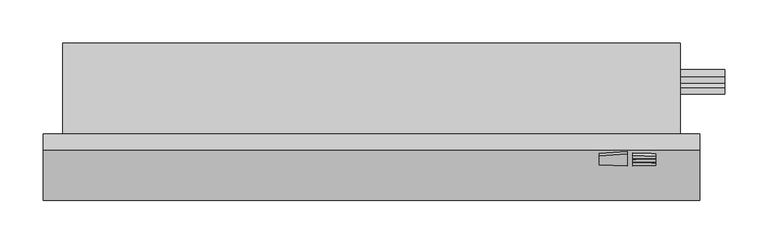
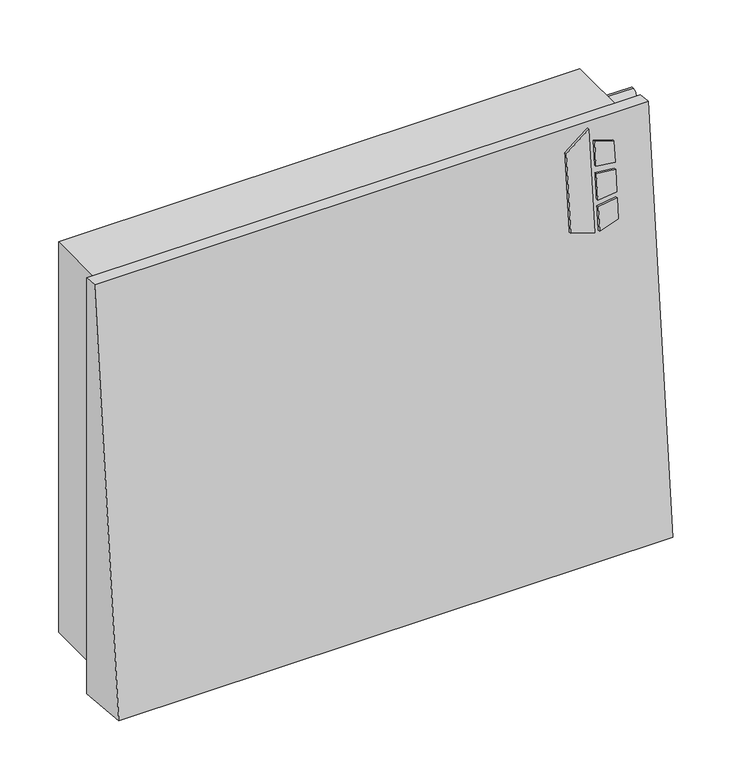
"""IFC4 building model written with IfcOpenShell, lengths in millimetres: proxy geometry, Exposed_Wall_Mounted_Fan_Coil_Unit_-_STY_-_IEC_-_2-Pipe_RH_2022 : Size 03 - 115V/60Hz/1Ph - 2 Row Coil."""

import ifcopenshell
import ifcopenshell.guid

model = None  # the IFC model being written
_history = None  # IfcOwnerHistory: only IFC2X3 demands one
_inside = {}  # id of a spatial element -> (the spatial element, [elements in it])
_under = {}  # id of a project, library or spatial element -> (it, [spatial elements below it])
_declared = {}  # id of a project -> (the project, [libraries it declares])
_typed = {}  # id of a type object -> (the type object, [elements of that type])
_made_of = {}  # id of a material, layer set ... -> (it, [elements and type objects made of it])


def new_model(schema):
    """Start an empty IFC model of exactly this schema.

    Asked for "IFC4X3", IfcOpenShell would pick the latest addendum, in which some entities
    have other attributes; the version numbers below select the first issue.
    IFC2X3 requires an IfcOwnerHistory on every rooted entity: one is made here for all.
    """
    global model, _history
    if schema == "IFC4X3":
        model = ifcopenshell.file(schema_version=(4, 3, 0, 0))
    else:
        model = ifcopenshell.file(schema=schema)
    _inside.clear()
    _under.clear()
    _declared.clear()
    _typed.clear()
    _made_of.clear()
    _history = None
    if model.schema == "IFC2X3":
        org = make("IfcOrganization", Name="unknown")
        user = make(
            "IfcPersonAndOrganization",
            ThePerson=make("IfcPerson", FamilyName="unknown"),
            TheOrganization=org,
        )
        app = make(
            "IfcApplication",
            ApplicationDeveloper=org,
            Version="unknown",
            ApplicationFullName="unknown",
            ApplicationIdentifier="unknown",
        )
        _history = make(
            "IfcOwnerHistory",
            OwningUser=user,
            OwningApplication=app,
            ChangeAction="ADDED",
            CreationDate=0,
        )
    return model


def make(cls, **values):
    """One entity of the class cls with the attributes given. An attribute that is None is left unset."""
    return model.create_entity(
        cls, **{name: value for name, value in values.items() if value is not None}
    )


def rooted(cls, **values):
    """An entity with a GlobalId (a new one), such as an element, a storey or a relation."""
    return make(cls, GlobalId=ifcopenshell.guid.new(), OwnerHistory=_history, **values)


def si_unit(unit_type, name, prefix=None):
    """IfcSIUnit, for example si_unit("LENGTHUNIT", "METRE", prefix="MILLI")."""
    return make("IfcSIUnit", UnitType=unit_type, Prefix=prefix, Name=name)


def assignment(units):
    """IfcUnitAssignment: the units of a project."""
    return None if units is None else make("IfcUnitAssignment", Units=units)


def point(xyz):
    """IfcCartesianPoint."""
    return None if xyz is None else make("IfcCartesianPoint", Coordinates=xyz)


def direction(xyz):
    """IfcDirection."""
    return None if xyz is None else make("IfcDirection", DirectionRatios=xyz)


def frame(location, z_axis=None, x_axis=None):
    """IfcAxis2Placement3D, a coordinate frame: its origin and axes. An axis left out is left unset."""
    return make(
        "IfcAxis2Placement3D",
        Location=point(location),
        Axis=direction(z_axis),
        RefDirection=direction(x_axis),
    )


def frame_2d(location, x_axis=None):
    """IfcAxis2Placement2D, a coordinate frame in the plane: its origin and x axis."""
    return make(
        "IfcAxis2Placement2D", Location=point(location), RefDirection=direction(x_axis)
    )


def origin():
    """The frame at (0, 0, 0) with its axes left unset."""
    return frame((0.0, 0.0, 0.0))


def place(relative_to, where):
    """IfcLocalPlacement: puts the frame where relative to a parent placement (None: the world)."""
    return make(
        "IfcLocalPlacement", PlacementRelTo=relative_to, RelativePlacement=where
    )


def context(
    kind, dimensions, precision=None, world=None, true_north=None, identifier=None
):
    """IfcGeometricRepresentationContext, for example the 3D "Model" context."""
    return make(
        "IfcGeometricRepresentationContext",
        ContextIdentifier=identifier,
        ContextType=kind,
        CoordinateSpaceDimension=dimensions,
        Precision=precision,
        WorldCoordinateSystem=world,
        TrueNorth=true_north,
    )


def project(units=None, contexts=None):
    """IfcProject with its units and contexts."""
    return rooted(
        "IfcProject",
        Name="project",
        RepresentationContexts=contexts,
        UnitsInContext=assignment(units),
    )


def spatial(cls, under=None, at=None, **own):
    """A site, building, storey or space (cls), placed at a placement, below another one or the project."""
    s = rooted(cls, ObjectPlacement=at, **own)
    if under is not None:
        _under.setdefault(under.id(), (under, []))[1].append(s)
    return s


def polyline(points):
    """IfcPolyline through the points."""
    return make("IfcPolyline", Points=[point(p) for p in points])


def circle_curve(where, radius):
    """IfcCircle in the frame where."""
    return make("IfcCircle", Position=where, Radius=radius)


def trimmed(basis, trim1, trim2, sense, master):
    """IfcTrimmedCurve: the piece of a basis curve between two trims."""
    return make(
        "IfcTrimmedCurve",
        BasisCurve=basis,
        Trim1=trim1,
        Trim2=trim2,
        SenseAgreement=sense,
        MasterRepresentation=master,
    )


def segment(curve, same_sense, transition):
    """IfcCompositeCurveSegment."""
    return make(
        "IfcCompositeCurveSegment",
        Transition=transition,
        SameSense=same_sense,
        ParentCurve=curve,
    )


def composite_curve(segments, self_intersect=None):
    """IfcCompositeCurve: segments joined end to end."""
    return make("IfcCompositeCurve", Segments=segments, SelfIntersect=self_intersect)


def outline(outer, holes=None, kind="AREA"):
    """IfcArbitraryClosedProfileDef: a profile drawn as a closed curve; with holes, ...WithVoids."""
    if holes is None:
        return make("IfcArbitraryClosedProfileDef", ProfileType=kind, OuterCurve=outer)
    return make(
        "IfcArbitraryProfileDefWithVoids",
        ProfileType=kind,
        OuterCurve=outer,
        InnerCurves=holes,
    )


def extrude(swept, where, along, depth):
    """IfcExtrudedAreaSolid: the profile swept, set in the frame where, extruded along a direction by depth."""
    return make(
        "IfcExtrudedAreaSolid",
        SweptArea=swept,
        Position=where,
        ExtrudedDirection=direction(along),
        Depth=depth,
    )


def shape(context_of_items, identifier, shape_type, items):
    """IfcShapeRepresentation: the items that make up one representation, for example the "Body"."""
    return make(
        "IfcShapeRepresentation",
        ContextOfItems=context_of_items,
        RepresentationIdentifier=identifier,
        RepresentationType=shape_type,
        Items=items,
    )


def source(mapping_origin, context_of_items, identifier, shape_type, items):
    """IfcRepresentationMap: a shape defined once, which mapped items show again and again."""
    return make(
        "IfcRepresentationMap",
        MappingOrigin=mapping_origin,
        MappedRepresentation=shape(context_of_items, identifier, shape_type, items),
    )


def transform(
    local_origin,
    x_axis=None,
    y_axis=None,
    z_axis=None,
    scale=None,
    scale2=None,
    scale3=None,
    uniform=True,
):
    """IfcCartesianTransformationOperator3D, or its non-uniform kind. x_axis, y_axis, z_axis: its Axis1, 2, 3."""
    if uniform:
        return make(
            "IfcCartesianTransformationOperator3D",
            Axis1=direction(x_axis),
            Axis2=direction(y_axis),
            LocalOrigin=point(local_origin),
            Scale=scale,
            Axis3=direction(z_axis),
        )
    return make(
        "IfcCartesianTransformationOperator3DnonUniform",
        Axis1=direction(x_axis),
        Axis2=direction(y_axis),
        LocalOrigin=point(local_origin),
        Scale=scale,
        Axis3=direction(z_axis),
        Scale2=scale2,
        Scale3=scale3,
    )


def mapped(mapping_source, mapping_target):
    """IfcMappedItem: shows the shape of a source again, moved by a transform."""
    return make(
        "IfcMappedItem", MappingSource=mapping_source, MappingTarget=mapping_target
    )


def made_of(thing, what):
    """Note that an element or type object is made of a material, layer set ...; save() writes the relation."""
    if what is not None:
        _made_of.setdefault(what.id(), (what, []))[1].append(thing)
    return thing


def element(
    cls,
    number,
    at=None,
    inside=None,
    cuts=None,
    type_object=None,
    material=None,
    context=None,
    identifier="Body",
    shape_type=None,
    held_by="IfcProductDefinitionShape",
    body=None,
    shapes=None,
    **own,
):
    """One element of the class cls, such as IfcWall. Its Tag is "e" and its number.

    at: its placement. inside: the storey or other place that contains it. cuts: it is an
    opening in that element (IfcRelVoidsElement). A single representation is given by context,
    identifier, shape_type and body (its items); several are given by shapes. held_by: the class
    of the entity that holds the representations. save() writes the other relations.
    """
    e = rooted(cls, Tag="e%d" % number, ObjectPlacement=at, **own)
    if body is not None:
        shapes = [shape(context, identifier, shape_type, body)]
    if shapes is not None:
        e.Representation = make(held_by, Representations=shapes)
    if inside is not None:
        _inside.setdefault(inside.id(), (inside, []))[1].append(e)
    if cuts is not None:
        rooted(
            "IfcRelVoidsElement", RelatingBuildingElement=cuts, RelatedOpeningElement=e
        )
    if type_object is not None:
        _typed.setdefault(type_object.id(), (type_object, []))[1].append(e)
    return made_of(e, material)


def aggregate(whole, parts):
    """IfcRelAggregates: a whole, such as a stair, and the parts it consists of."""
    return rooted("IfcRelAggregates", RelatingObject=whole, RelatedObjects=parts)


def save(model, path):
    """Write the relations noted so far, then the file.

    IfcRelAggregates (storeys below a building ...), IfcRelContainedInSpatialStructure (elements
    in a storey), IfcRelDefinesByType, IfcRelAssociatesMaterial and IfcRelDeclares: one each for
    every whole, place, type object, material and project.
    """
    for whole, parts in _under.values():
        aggregate(whole, parts)
    for where, things in _inside.values():
        rooted(
            "IfcRelContainedInSpatialStructure",
            RelatedElements=things,
            RelatingStructure=where,
        )
    for kind, things in _typed.values():
        rooted("IfcRelDefinesByType", RelatedObjects=things, RelatingType=kind)
    for what, things in _made_of.values():
        rooted("IfcRelAssociatesMaterial", RelatedObjects=things, RelatingMaterial=what)
    for by, libraries in _declared.values():
        rooted("IfcRelDeclares", RelatingContext=by, RelatedDefinitions=libraries)
    model.write(path)


def plane_surface(at):
    """IfcPlane: the flat surface through the origin of the frame at, square to its z axis."""
    return make("IfcPlane", Position=at)


def revolved_surface(curve, axis_point, axis_direction):
    """IfcSurfaceOfRevolution: the curve turned about the line through axis_point along axis_direction."""
    return make(
        "IfcSurfaceOfRevolution",
        SweptCurve=make("IfcArbitraryOpenProfileDef", ProfileType="CURVE", Curve=curve),
        AxisPosition=make("IfcAxis1Placement", Location=point(axis_point), Axis=direction(axis_direction)),
    )


def advanced_brep(points, edges, surfaces, faces):
    """IfcAdvancedBrep: a solid bounded by faces that lie on surfaces and meet in shared edges.

    An edge is (start, end): straight between two places in points (the first is 0);
    or (start, end, curve); or (start, end, curve, False) where it runs against its curve.
    A face is (place in surfaces, loops), or (place, loops, False) where it looks against
    its surface's normal. A loop lists edges by number (the first is 1), with a minus sign
    where the edge is run from its end to its start. The first loop is the outer one.
    """
    corners = [point(p) for p in points]
    vertices = [make("IfcVertexPoint", VertexGeometry=c) for c in corners]
    made = []
    for start, end, *more in edges:
        made.append(
            make(
                "IfcEdgeCurve",
                EdgeStart=vertices[start],
                EdgeEnd=vertices[end],
                EdgeGeometry=more[0] if more else make("IfcPolyline", Points=[corners[start], corners[end]]),
                SameSense=more[1] if len(more) > 1 else True,
            )
        )
    hull = []
    for where, loops, *sense in faces:
        bounds = []
        for j, loop in enumerate(loops):
            ring = [make("IfcOrientedEdge", EdgeElement=made[abs(k) - 1], Orientation=k > 0) for k in loop]
            bounds.append(
                make(
                    "IfcFaceOuterBound" if j == 0 else "IfcFaceBound",
                    Bound=make("IfcEdgeLoop", EdgeList=ring),
                    Orientation=True,
                )
            )
        hull.append(make("IfcAdvancedFace", Bounds=bounds, FaceSurface=surfaces[where], SameSense=sense[0] if sense else True))
    return make("IfcAdvancedBrep", Outer=make("IfcClosedShell", CfsFaces=hull))


def mechanical_equipment_5f7a3c42(model_context):
    return source(origin(), model_context, "Body", "SolidModel", [
        extrude(outline(polyline([(0.0, 0.0), (32.2582589, -104.3275129), (8.3214524, -135.826225), (-33.6762663, 0.0), (0.0, 0.0)])), frame((935.1118862, -375.3885352, 461.2981442), z_axis=(0.0, -0.9953961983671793, 0.09584575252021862), x_axis=(-0.9553727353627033, 0.028313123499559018, 0.2940430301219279)), (0.0, 0.0, 1.0), 3.175),
        extrude(outline(polyline([(-13.857677, -86.9743105), (-3.7871334, -119.543792), (-31.0868387, -119.543792), (-39.7211263, -91.6193542), (-13.857677, -86.9743105)])), frame((935.1118862, -375.3885352, 461.2981442), z_axis=(0.0, -0.9953961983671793, 0.09584575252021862), x_axis=(-0.9553727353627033, 0.028313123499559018, 0.2940430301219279)), (0.0, 0.0, 1.0), 3.175),
        extrude(outline(polyline([(-54.0957717, -45.1298332), (-62.4998666, -17.9498691), (-40.1329933, -1.9964319), (-30.2611188, -33.9233912), (-54.0957717, -45.1298332)])), frame((935.1118862, -375.3885352, 461.2981442), z_axis=(0.0, -0.9953961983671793, 0.09584575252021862), x_axis=(-0.9553727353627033, 0.028313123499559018, 0.2940430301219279)), (0.0, 0.0, 1.0), 3.175),
        extrude(outline(polyline([(-42.4819548, -82.6904665), (-51.6141784, -53.155637), (-27.5065034, -42.8321849), (-16.8904435, -77.1659389), (-42.4819548, -82.6904665)])), frame((935.1118862, -375.3885352, 461.2981442), z_axis=(0.0, -0.9953961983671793, 0.09584575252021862), x_axis=(-0.9553727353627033, 0.028313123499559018, 0.2940430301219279)), (0.0, 0.0, 1.0), 3.175),
        advanced_brep(
        [(1028.7, -342.9, 581.025), (1028.7, -342.9, 17.4625), (1028.7, -238.125, 17.4625), (1028.7, -238.125, 581.025), (1028.7, -288.925, 106.3625), (1028.7, -288.925, 80.9625), (317.5, -342.9, 581.025), (317.5, -238.125, 581.025), (317.5, -238.125, 17.4625), (317.5, -342.9, 17.4625), (1016.0, -288.925, 80.9625), (1016.0, -288.925, 106.3625)],
        [
            (0, 1),
            (1, 2),
            (2, 3),
            (3, 0),
            (4, 5, circle_curve(frame((1028.7, -288.925, 93.6625), z_axis=(-1.0, 0.0, 0.0), x_axis=(0.0, 0.0, 1.0)), 12.7)),
            (5, 4, circle_curve(frame((1028.7, -288.925, 93.6625), z_axis=(-1.0, 0.0, 0.0), x_axis=(0.0, 0.0, 1.0)), 12.7)),
            (6, 7),
            (7, 8),
            (8, 9),
            (9, 6),
            (0, 6),
            (9, 1),
            (8, 2),
            (7, 3),
            (10, 11, circle_curve(frame((1016.0, -288.925, 93.6625), z_axis=(1.0, 0.0, 0.0), x_axis=(0.0, 0.0, 1.0)), 12.7)),
            (11, 10, circle_curve(frame((1016.0, -288.925, 93.6625), z_axis=(1.0, 0.0, 0.0), x_axis=(0.0, 0.0, 1.0)), 12.7)),
            (10, 5),
            (4, 11),
        ],
        [
            plane_surface(frame((1028.7, -342.9, 581.025), z_axis=(1.0, 0.0, 0.0), x_axis=(0.0, 0.0, -1.0))),
            plane_surface(frame((317.5, -342.9, 581.025), z_axis=(-1.0, 0.0, 0.0), x_axis=(0.0, 0.0, 1.0))),
            plane_surface(frame((1028.7, -342.9, 581.025), z_axis=(0.0, -1.0, 0.0), x_axis=(-1.0, 0.0, 0.0))),
            plane_surface(frame((1028.7, -342.9, 17.4625), z_axis=(0.0, 0.0, -1.0), x_axis=(-1.0, 0.0, 0.0))),
            plane_surface(frame((1028.7, -238.125, 17.4625), z_axis=(0.0, 1.0, 0.0), x_axis=(-1.0, 0.0, 0.0))),
            plane_surface(frame((1028.7, -238.125, 581.025), z_axis=(0.0, 0.0, 1.0), x_axis=(-1.0, 0.0, 0.0))),
            plane_surface(frame((1016.0, -288.925, 106.3625), z_axis=(1.0, 0.0, 0.0), x_axis=(0.0, 1.0, 0.0))),
            revolved_surface(polyline([(1028.7, -288.925, 106.3625), (1016.0, -288.925, 106.3625)]), (1016.0, -288.925, 93.6625), (1.0, 0.0, 0.0)),
        ],
        [
            (0, [[1, 2, 3, 4], [5, 6]]),
            (1, [[7, 8, 9, 10]]),
            (2, [[-1, 11, -10, 12]]),
            (3, [[-2, -12, -9, 13]]),
            (4, [[-3, -13, -8, 14]]),
            (5, [[-4, -14, -7, -11]]),
            (6, [[15, 16]]),
            (7, [[-15, 17, -5, 18]]),
            (7, [[-16, -18, -6, -17]]),
        ],
    ),
        extrude(outline(polyline([(-342.9, 599.8356093), (-342.9, 0.0), (-419.1, 7.3372255), (-361.872985, 601.6625), (-342.9, 599.8356093)])), frame((295.275, 0.0, 0.0), z_axis=(1.0, 0.0, 0.0), x_axis=(0.0, 1.0, 0.0)), (0.0, 0.0, 1.0), 755.65),
        extrude(outline(composite_curve([segment(trimmed(circle_curve(frame_2d((-276.225, 550.8625)), 7.9375), [point((-276.225, 542.925))], [point((-276.225, 558.8))], False, "CARTESIAN"), True, "CONTINUOUS"), segment(trimmed(circle_curve(frame_2d((-276.225, 550.8625)), 7.9375), [point((-276.225, 558.8))], [point((-276.225, 542.925))], False, "CARTESIAN"), True, "CONTINUOUS")], self_intersect=False)), frame((1028.7, 0.0, 0.0), z_axis=(1.0, 0.0, 0.0), x_axis=(0.0, 1.0, 0.0)), (0.0, 0.0, 1.0), 50.8),
        extrude(outline(composite_curve([segment(trimmed(circle_curve(frame_2d((-276.225, 398.4625)), 7.9375), [point((-276.225, 390.525))], [point((-276.225, 406.4))], False, "CARTESIAN"), True, "CONTINUOUS"), segment(trimmed(circle_curve(frame_2d((-276.225, 398.4625)), 7.9375), [point((-276.225, 406.4))], [point((-276.225, 390.525))], False, "CARTESIAN"), True, "CONTINUOUS")], self_intersect=False)), frame((1028.7, 0.0, 0.0), z_axis=(1.0, 0.0, 0.0), x_axis=(0.0, 1.0, 0.0)), (0.0, 0.0, 1.0), 50.8),
        extrude(outline(composite_curve([segment(trimmed(circle_curve(frame_2d((-288.925, 271.4625)), 7.9375), [point((-288.925, 263.525))], [point((-288.925, 279.4))], False, "CARTESIAN"), True, "CONTINUOUS"), segment(trimmed(circle_curve(frame_2d((-288.925, 271.4625)), 7.9375), [point((-288.925, 279.4))], [point((-288.925, 263.525))], False, "CARTESIAN"), True, "CONTINUOUS")], self_intersect=False)), frame((1028.7, 0.0, 0.0), z_axis=(1.0, 0.0, 0.0), x_axis=(0.0, 1.0, 0.0)), (0.0, 0.0, 1.0), 50.8),
    ])


if __name__ == "__main__":
    model = new_model("IFC4")
    model_context = context("Model", 3, world=origin())
    ifc_project = project(units=[si_unit("LENGTHUNIT", "METRE", prefix="MILLI")], contexts=[model_context])
    site = spatial("IfcSite", under=ifc_project)
    building = spatial("IfcBuilding", under=site)
    placement = place(None, origin())
    mechanical_equipment_shape = mechanical_equipment_5f7a3c42(model_context)
    element("IfcBuildingElementProxy", 1, Name="Exposed_Wall_Mounted_Fan_Coil_Unit_-_STY_-_IEC_-_2-Pipe_RH_2022 : Size 03 - 115V/60Hz/1Ph - 2 Row Coil", ObjectType="Exposed_Wall_Mounted_Fan_Coil_Unit_-_STY_-_IEC_-_2-Pipe_RH_2022 : Size 03 - 115V/60Hz/1Ph - 2 Row Coil", at=placement, inside=building, context=model_context, shape_type="MappedRepresentation", body=[
        mapped(mechanical_equipment_shape, transform((0.0, 0.0, 0.0), x_axis=(1.0, 0.0, 0.0), y_axis=(0.0, 1.0, 0.0), z_axis=(0.0, 0.0, 1.0))),
    ])
    save(model, "model.ifc")
